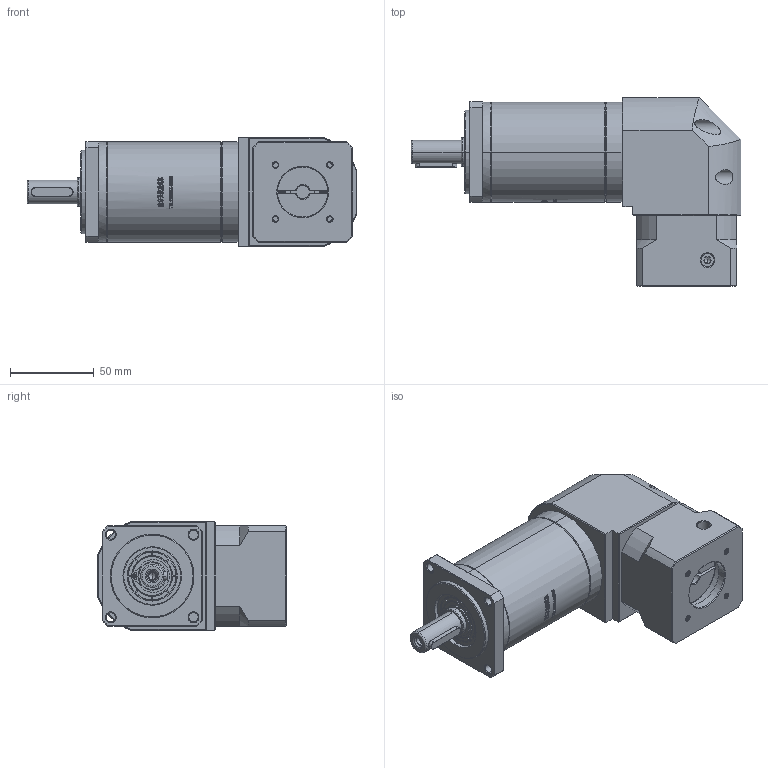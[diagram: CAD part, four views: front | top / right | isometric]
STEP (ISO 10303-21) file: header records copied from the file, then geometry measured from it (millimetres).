
FILE_DESCRIPTION (( 'STEP AP214' ), '1' );
FILE_NAME ('ZFR60-D14-L3-8-30-46-M4.STEP', '2022-04-20T08:09:28', ( '' ), ( 'Microsoft' ), 'SwSTEP 2.0', 'SolidWorks 2016', '' );
FILE_SCHEMA (( 'AUTOMOTIVE_DESIGN' ));
Length unit declared in the file: millimetre
Products named in the file (1): ZFR60-D14-L3-8-30-46-M4
Bounding box: 197.5 x 112.7 x 65 mm (x, y, z)
Volume: 643281.2 mm3; surface area: 86976.1 mm2
Topology: 5 solids, 6 shells, 2736 faces, 7478 edges, 4884 vertices
Faces by surface type: plane 1395, bspline 643, cylinder 386, cone 286, torus 26
Entity records: 170433 total; most frequent: CARTESIAN_POINT 77105, ORIENTED_EDGE 14928, DIRECTION 10507, EDGE_CURVE 7464, VERTEX_POINT 4884, LINE 4375, VECTOR 4375, AXIS2_PLACEMENT_3D 3066
